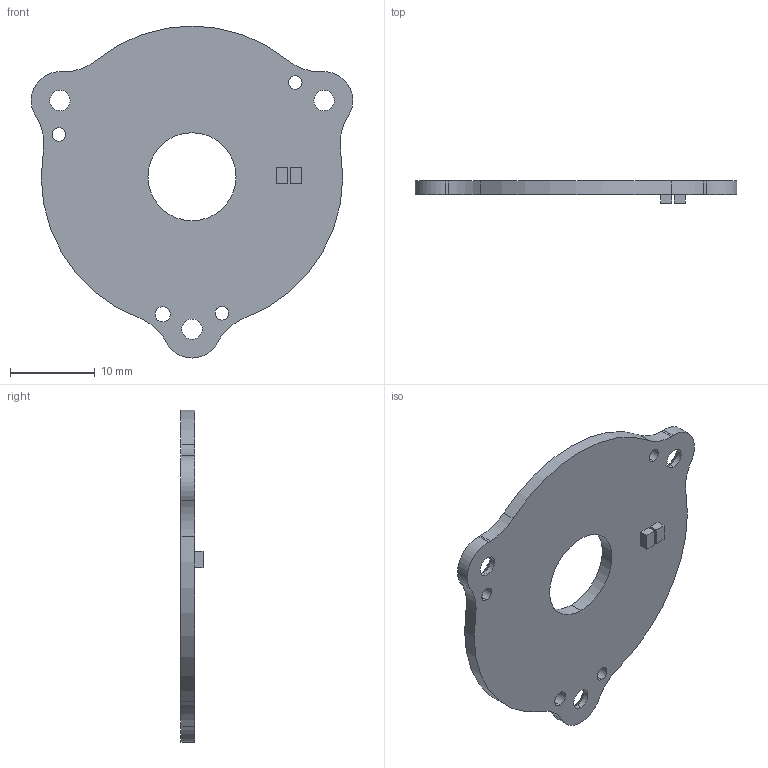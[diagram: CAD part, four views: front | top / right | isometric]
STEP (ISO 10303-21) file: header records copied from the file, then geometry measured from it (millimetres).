
FILE_DESCRIPTION (( 'STEP AP214' ), '1' );
FILE_NAME ('1020-104_Rev1-1.STEP', '2021-08-05T07:48:37', ( '' ), ( '' ), 'SwSTEP 2.0', 'SolidWorks 2021', '' );
FILE_SCHEMA (( 'AUTOMOTIVE_DESIGN' ));
Length unit declared in the file: millimetre
Products named in the file (1): 1020-104_Rev1-1
Bounding box: 37.96 x 2.6 x 39.2 mm (x, y, z)
Volume: 1523.4 mm3; surface area: 2235.6 mm2
Topology: 1 solids, 1 shells, 49 faces, 129 edges, 84 vertices
Faces by surface type: cylinder 31, plane 12, cone 6
Entity records: 1609 total; most frequent: DIRECTION 297, CARTESIAN_POINT 263, ORIENTED_EDGE 258, EDGE_CURVE 129, AXIS2_PLACEMENT_3D 118, VERTEX_POINT 84, CIRCLE 68, EDGE_LOOP 67
